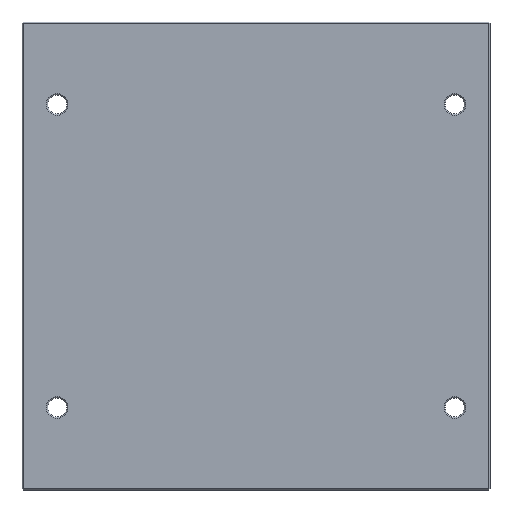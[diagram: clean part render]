
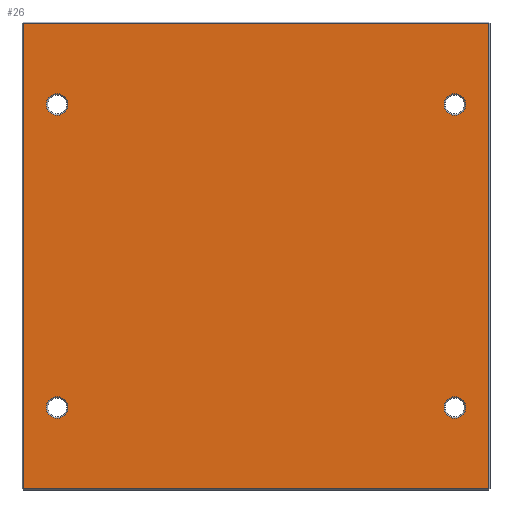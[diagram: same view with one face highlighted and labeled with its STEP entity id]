
A CAD part, front view. The second image highlights one B-rep face of the part: STEP entity #26.
In plain terms, the highlighted planar face has unit normal (0, -1, 0).
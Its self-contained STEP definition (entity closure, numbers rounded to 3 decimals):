
#2 = VECTOR ( 'NONE', #1152, 1000. ) ;
#26 = ADVANCED_FACE ( 'NONE', ( #1031, #982, #1590, #1320, #1282 ), #990, .F. ) ;
#59 = ORIENTED_EDGE ( 'NONE', *, *, #738, .T. ) ;
#97 = CARTESIAN_POINT ( 'NONE',  ( -147., 0., 112. ) ) ;
#100 = VERTEX_POINT ( 'NONE', #1074 ) ;
#116 = ORIENTED_EDGE ( 'NONE', *, *, #1185, .T. ) ;
#118 = EDGE_LOOP ( 'NONE', ( #360, #1268 ) ) ;
#122 = DIRECTION ( 'NONE',  ( 0., 0., 1. ) ) ;
#136 = DIRECTION ( 'NONE',  ( 0., 1., 0. ) ) ;
#138 = CARTESIAN_POINT ( 'NONE',  ( -147., 0., 112. ) ) ;
#154 = EDGE_CURVE ( 'NONE', #1140, #961, #1065, .T. ) ;
#163 = DIRECTION ( 'NONE',  ( 0., 0., 1. ) ) ;
#195 = CARTESIAN_POINT ( 'NONE',  ( 147., 0., -104. ) ) ;
#211 = CIRCLE ( 'NONE', #1597, 8. ) ;
#232 = CIRCLE ( 'NONE', #702, 8. ) ;
#235 = CARTESIAN_POINT ( 'NONE',  ( -147., 0., -112. ) ) ;
#250 = DIRECTION ( 'NONE',  ( 0., 0., 1. ) ) ;
#252 = DIRECTION ( 'NONE',  ( 0., 1., 0. ) ) ;
#259 = DIRECTION ( 'NONE',  ( 0., 0., 1. ) ) ;
#294 = CIRCLE ( 'NONE', #1519, 8. ) ;
#299 = VERTEX_POINT ( 'NONE', #1021 ) ;
#306 = VECTOR ( 'NONE', #413, 1000. ) ;
#355 = CARTESIAN_POINT ( 'NONE',  ( 0., 0., -172. ) ) ;
#360 = ORIENTED_EDGE ( 'NONE', *, *, #370, .T. ) ;
#370 = EDGE_CURVE ( 'NONE', #425, #608, #423, .T. ) ;
#375 = CIRCLE ( 'NONE', #946, 8. ) ;
#384 = ORIENTED_EDGE ( 'NONE', *, *, #911, .T. ) ;
#399 = CARTESIAN_POINT ( 'NONE',  ( 0., 0., 172. ) ) ;
#405 = CARTESIAN_POINT ( 'NONE',  ( -147., 0., -104. ) ) ;
#411 = EDGE_LOOP ( 'NONE', ( #1078, #658 ) ) ;
#413 = DIRECTION ( 'NONE',  ( 1., 0., 0. ) ) ;
#423 = CIRCLE ( 'NONE', #1041, 8. ) ;
#425 = VERTEX_POINT ( 'NONE', #1583 ) ;
#429 = AXIS2_PLACEMENT_3D ( 'NONE', #1497, #1493, #1485 ) ;
#445 = DIRECTION ( 'NONE',  ( 0., 0., -1. ) ) ;
#470 = DIRECTION ( 'NONE',  ( 0., 1., 0. ) ) ;
#473 = ORIENTED_EDGE ( 'NONE', *, *, #154, .T. ) ;
#484 = EDGE_CURVE ( 'NONE', #961, #299, #1299, .T. ) ;
#486 = CARTESIAN_POINT ( 'NONE',  ( 172., 0., 172. ) ) ;
#498 = ORIENTED_EDGE ( 'NONE', *, *, #1325, .T. ) ;
#503 = VERTEX_POINT ( 'NONE', #1013 ) ;
#519 = ORIENTED_EDGE ( 'NONE', *, *, #1276, .T. ) ;
#520 = LINE ( 'NONE', #966, #1178 ) ;
#533 = CARTESIAN_POINT ( 'NONE',  ( -172., 0., 0. ) ) ;
#544 = EDGE_CURVE ( 'NONE', #1336, #100, #294, .T. ) ;
#593 = VECTOR ( 'NONE', #445, 1000. ) ;
#597 = EDGE_CURVE ( 'NONE', #100, #1336, #211, .T. ) ;
#601 = EDGE_LOOP ( 'NONE', ( #384, #1567 ) ) ;
#608 = VERTEX_POINT ( 'NONE', #1330 ) ;
#619 = ORIENTED_EDGE ( 'NONE', *, *, #484, .T. ) ;
#620 = AXIS2_PLACEMENT_3D ( 'NONE', #1006, #807, #1020 ) ;
#624 = EDGE_LOOP ( 'NONE', ( #59, #473, #619, #519 ) ) ;
#626 = DIRECTION ( 'NONE',  ( 0., 0., 1. ) ) ;
#636 = LINE ( 'NONE', #355, #306 ) ;
#648 = DIRECTION ( 'NONE',  ( 0., 1., 0. ) ) ;
#658 = ORIENTED_EDGE ( 'NONE', *, *, #544, .T. ) ;
#660 = VERTEX_POINT ( 'NONE', #1318 ) ;
#675 = CARTESIAN_POINT ( 'NONE',  ( 147., 0., 112. ) ) ;
#702 = AXIS2_PLACEMENT_3D ( 'NONE', #235, #252, #259 ) ;
#711 = CIRCLE ( 'NONE', #429, 8. ) ;
#738 = EDGE_CURVE ( 'NONE', #950, #1140, #520, .T. ) ;
#747 = EDGE_CURVE ( 'NONE', #1035, #660, #232, .T. ) ;
#807 = DIRECTION ( 'NONE',  ( 0., 1., 0. ) ) ;
#865 = DIRECTION ( 'NONE',  ( 0., 0., 1. ) ) ;
#873 = CARTESIAN_POINT ( 'NONE',  ( -147., 0., 120. ) ) ;
#911 = EDGE_CURVE ( 'NONE', #660, #1035, #976, .T. ) ;
#946 = AXIS2_PLACEMENT_3D ( 'NONE', #97, #1634, #250 ) ;
#950 = VERTEX_POINT ( 'NONE', #1610 ) ;
#961 = VERTEX_POINT ( 'NONE', #1476 ) ;
#966 = CARTESIAN_POINT ( 'NONE',  ( 172., 0., 0. ) ) ;
#976 = CIRCLE ( 'NONE', #1544, 8. ) ;
#982 = FACE_BOUND ( 'NONE', #118, .T. ) ;
#990 = PLANE ( 'NONE',  #620 ) ;
#1006 = CARTESIAN_POINT ( 'NONE',  ( 0., 0., 0. ) ) ;
#1013 = CARTESIAN_POINT ( 'NONE',  ( -147., 0., 104. ) ) ;
#1020 = DIRECTION ( 'NONE',  ( 0., 0., 1. ) ) ;
#1021 = CARTESIAN_POINT ( 'NONE',  ( -172., 0., -172. ) ) ;
#1031 = FACE_BOUND ( 'NONE', #411, .T. ) ;
#1035 = VERTEX_POINT ( 'NONE', #405 ) ;
#1041 = AXIS2_PLACEMENT_3D ( 'NONE', #675, #648, #626 ) ;
#1065 = LINE ( 'NONE', #399, #2 ) ;
#1074 = CARTESIAN_POINT ( 'NONE',  ( 147., 0., -120. ) ) ;
#1078 = ORIENTED_EDGE ( 'NONE', *, *, #597, .T. ) ;
#1140 = VERTEX_POINT ( 'NONE', #486 ) ;
#1152 = DIRECTION ( 'NONE',  ( -1., 0., 0. ) ) ;
#1178 = VECTOR ( 'NONE', #163, 1000. ) ;
#1181 = DIRECTION ( 'NONE',  ( 0., 1., 0. ) ) ;
#1185 = EDGE_CURVE ( 'NONE', #1430, #503, #375, .T. ) ;
#1207 = DIRECTION ( 'NONE',  ( 0., 0., 1. ) ) ;
#1219 = EDGE_LOOP ( 'NONE', ( #498, #116 ) ) ;
#1268 = ORIENTED_EDGE ( 'NONE', *, *, #1638, .T. ) ;
#1276 = EDGE_CURVE ( 'NONE', #299, #950, #636, .T. ) ;
#1282 = FACE_OUTER_BOUND ( 'NONE', #624, .T. ) ;
#1294 = CARTESIAN_POINT ( 'NONE',  ( -147., 0., -112. ) ) ;
#1299 = LINE ( 'NONE', #533, #593 ) ;
#1318 = CARTESIAN_POINT ( 'NONE',  ( -147., 0., -120. ) ) ;
#1320 = FACE_BOUND ( 'NONE', #601, .T. ) ;
#1325 = EDGE_CURVE ( 'NONE', #503, #1430, #1524, .T. ) ;
#1330 = CARTESIAN_POINT ( 'NONE',  ( 147., 0., 120. ) ) ;
#1335 = CARTESIAN_POINT ( 'NONE',  ( 147., 0., -112. ) ) ;
#1336 = VERTEX_POINT ( 'NONE', #195 ) ;
#1430 = VERTEX_POINT ( 'NONE', #873 ) ;
#1456 = CARTESIAN_POINT ( 'NONE',  ( 147., 0., -112. ) ) ;
#1471 = DIRECTION ( 'NONE',  ( 0., 0., 1. ) ) ;
#1474 = AXIS2_PLACEMENT_3D ( 'NONE', #138, #136, #122 ) ;
#1476 = CARTESIAN_POINT ( 'NONE',  ( -172., 0., 172. ) ) ;
#1480 = DIRECTION ( 'NONE',  ( 0., 1., 0. ) ) ;
#1485 = DIRECTION ( 'NONE',  ( 0., 0., 1. ) ) ;
#1493 = DIRECTION ( 'NONE',  ( 0., 1., 0. ) ) ;
#1497 = CARTESIAN_POINT ( 'NONE',  ( 147., 0., 112. ) ) ;
#1519 = AXIS2_PLACEMENT_3D ( 'NONE', #1456, #1480, #865 ) ;
#1524 = CIRCLE ( 'NONE', #1474, 8. ) ;
#1544 = AXIS2_PLACEMENT_3D ( 'NONE', #1294, #470, #1471 ) ;
#1567 = ORIENTED_EDGE ( 'NONE', *, *, #747, .T. ) ;
#1583 = CARTESIAN_POINT ( 'NONE',  ( 147., 0., 104. ) ) ;
#1590 = FACE_BOUND ( 'NONE', #1219, .T. ) ;
#1597 = AXIS2_PLACEMENT_3D ( 'NONE', #1335, #1181, #1207 ) ;
#1610 = CARTESIAN_POINT ( 'NONE',  ( 172., 0., -172. ) ) ;
#1634 = DIRECTION ( 'NONE',  ( 0., 1., 0. ) ) ;
#1638 = EDGE_CURVE ( 'NONE', #608, #425, #711, .T. ) ;
